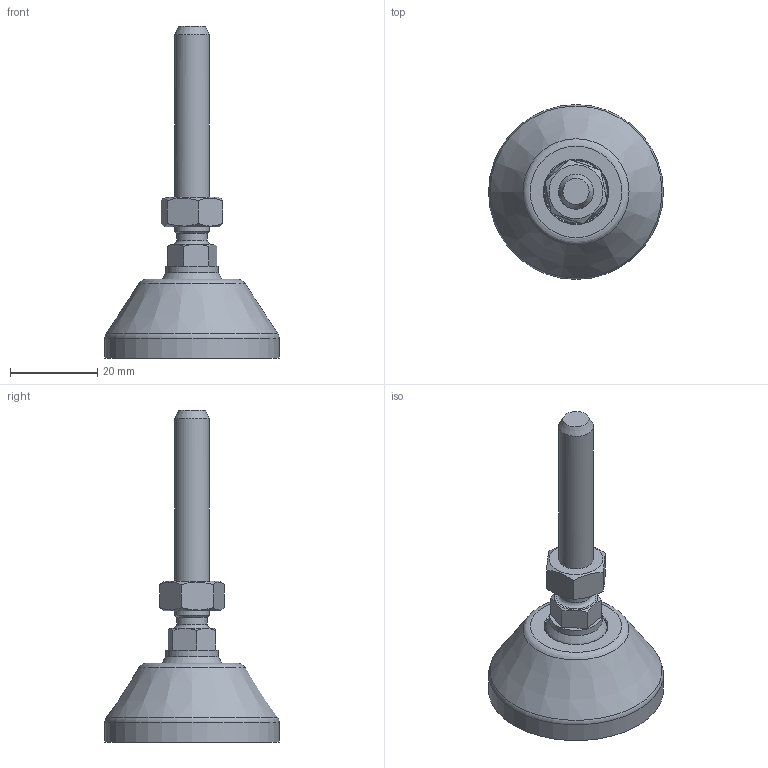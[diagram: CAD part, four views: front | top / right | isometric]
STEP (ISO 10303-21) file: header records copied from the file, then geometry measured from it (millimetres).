
FILE_DESCRIPTION(('STEP AP203'), '1');
FILE_NAME('栖闉罻', '', ('UNSPECIFIED'), ('UNSPECIFIED'), 'C3D Converter', 'C3D Toolkit', '');
FILE_SCHEMA(('CONFIG_CONTROL_DESIGN'));
Length unit declared in the file: millimetre
Products named in the file (4): A00020.108080; A00015.1040
Assembly tree (3 placements, depth 3):
  (unnamed)
    A00020.108080
      (unnamed)
    A00015.1040
Bounding box: 40 x 40 x 76 mm (x, y, z)
Volume: 15047.6 mm3; surface area: 8898.4 mm2
Topology: 3 solids, 3 shells, 142 faces, 401 edges, 269 vertices
Faces by surface type: plane 78, cylinder 26, torus 21, cone 15, sphere 2
Full cylindrical faces by diameter (mm): 6.647 x1, 7 x1, 8 x1, 12 x1, 14.3 x1, 15 x2, 15.5 x1, 32 x1, 40 x1
Entity records: 8303 total; most frequent: CARTESIAN_POINT 3378, ORIENTED_EDGE 748, DIRECTION 746, EDGE_CURVE 374, AXIS2_PLACEMENT_3D 300, VERTEX_POINT 268, EDGE_LOOP 174, FACE_BOUND 157
